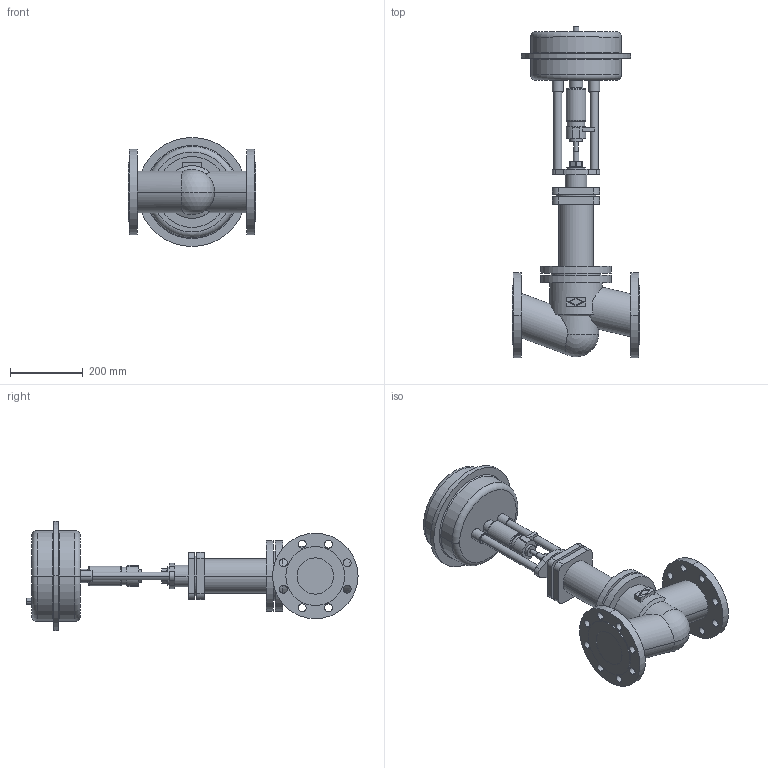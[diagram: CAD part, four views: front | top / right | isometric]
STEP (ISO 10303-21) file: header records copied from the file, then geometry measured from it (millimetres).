
FILE_DESCRIPTION(('OneSpaceDesigner STEP Export'),'2;1');
FILE_NAME('c000002091.stp','2005-12-12T11:51:35',(''),(''),'OneSpace Designer STEP processor for AP203 (Solid Model)','OneSpace Designer 13.20A 18-Aug-2005 (C) CoCreate Software GmbH','');
FILE_SCHEMA(('CONFIG_CONTROL_DESIGN'));
Length unit declared in the file: millimetre
Products named in the file (1): 1
Bounding box: 350 x 913.3 x 300 mm (x, y, z)
Volume: 17204391.1 mm3; surface area: 871340.3 mm2
Topology: 1 solids, 1 shells, 222 faces, 550 edges, 360 vertices
Faces by surface type: cylinder 116, plane 82, torus 16, cone 6, sphere 2
Entity records: 6234 total; most frequent: CARTESIAN_POINT 1260, ORIENTED_EDGE 1096, DIRECTION 909, EDGE_CURVE 548, VERTEX_POINT 360, AXIS2_PLACEMENT_3D 330, EDGE_LOOP 290, VECTOR 249
